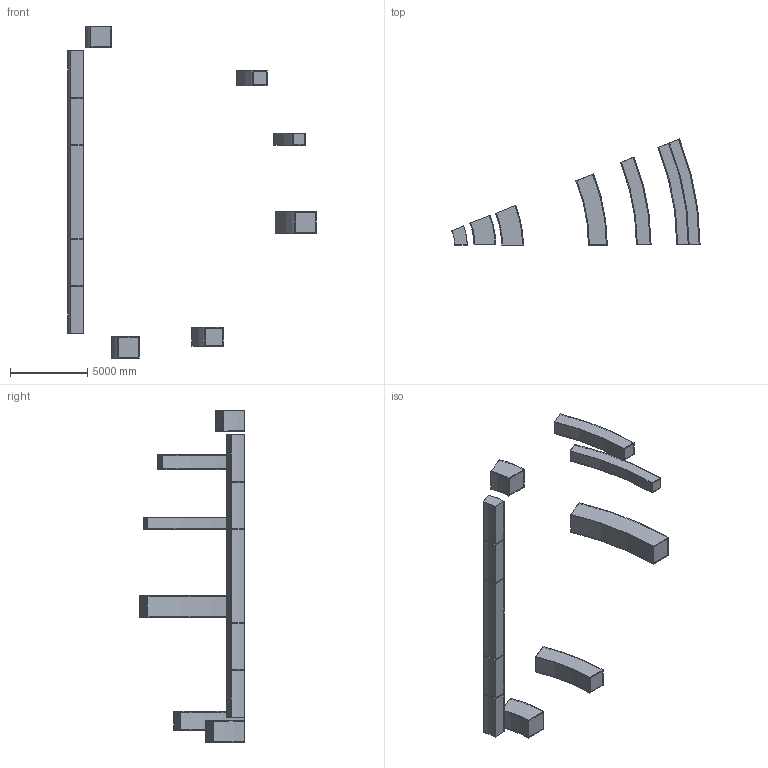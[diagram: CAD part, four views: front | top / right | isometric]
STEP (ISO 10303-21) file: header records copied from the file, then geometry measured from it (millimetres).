
FILE_DESCRIPTION(('FreeCAD Model'),'2;1');
FILE_NAME('Open CASCADE Shape Model','2026-10-11T08:37:00',('Bluemira'), ('Bluemira'),'Open CASCADE STEP processor 7.8','FreeCAD','Unknown');
FILE_SCHEMA(('AP242_MANAGED_MODEL_BASED_3D_ENGINEERING_MIM_LF. {1 0 10303 442 1 1 4 }'));
Length unit declared in the file: metre
Products named in the file (34): Unnamed; Winding_Pack; Ground_Insulation; Casing; Winding_Pack001; Ground_Insulation001; Casing001; Winding_Pack002; Ground_Insulation002; Casing002; Winding_Pack003; Ground_Insulation003; Casing003; Winding_Pack004; Ground_Insulation004; Casing004; Winding_Pack005; Ground_Insulation005; Casing005; Winding_Pack006; Ground_Insulation006; Casing006; Winding_Pack007; Ground_Insulation007; Casing007; Winding_Pack008; Ground_Insulation008; Casing008; Winding_Pack009; Ground_Insulation009; Casing009; Winding_Pack010; Ground_Insulation010; Casing010
Assembly tree (33 placements, depth 2):
  Unnamed
    Winding_Pack
    Ground_Insulation
    Casing
    Winding_Pack001
    Ground_Insulation001
    Casing001
    Winding_Pack002
    Ground_Insulation002
    Casing002
    Winding_Pack003
    Ground_Insulation003
    Casing003
    Winding_Pack004
    Ground_Insulation004
    Casing004
    Winding_Pack005
    Ground_Insulation005
    Casing005
    Winding_Pack006
    Ground_Insulation006
    Casing006
    Winding_Pack007
    Ground_Insulation007
    Casing007
    Winding_Pack008
    Ground_Insulation008
    Casing008
    Winding_Pack009
    Ground_Insulation009
    Casing009
    Winding_Pack010
    Ground_Insulation010
    Casing010
Bounding box: 16084.7 x 6860.35 x 21517.88 mm (x, y, z)
Volume: 53749242617.1 mm3; surface area: 867454252.9 mm2
Topology: 33 solids, 33 shells, 286 faces, 660 edges, 440 vertices
Faces by surface type: plane 176, cylinder 110
Entity records: 17352 total; most frequent: DIRECTION 2840, CARTESIAN_POINT 2740, LINE 1540, VECTOR 1540, ORIENTED_EDGE 1320, PCURVE 1320, DEFINITIONAL_REPRESENTATION 1320, EDGE_CURVE 660
